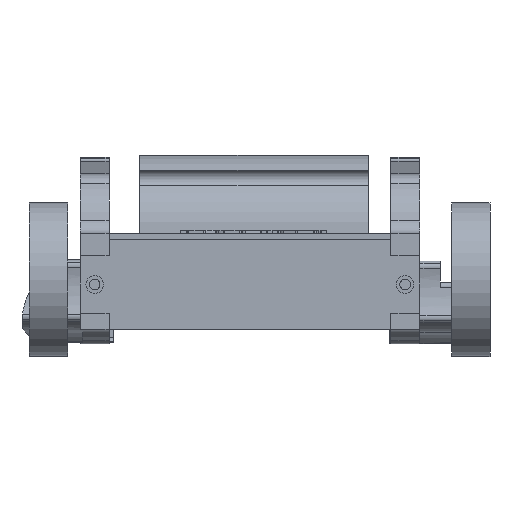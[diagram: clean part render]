
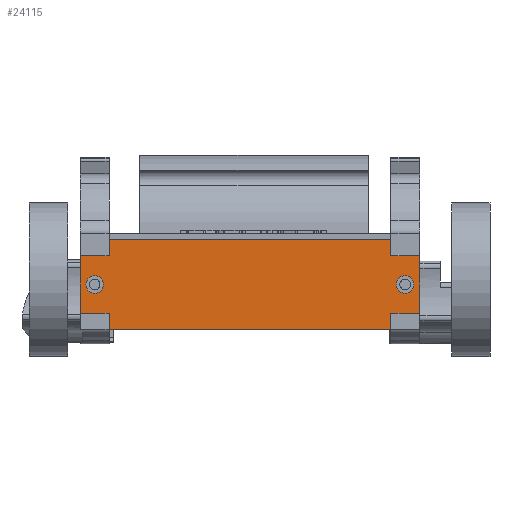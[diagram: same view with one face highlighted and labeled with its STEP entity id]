
A CAD part, front view. The second image highlights one B-rep face of the part: STEP entity #24115.
In plain terms, the highlighted planar face has unit normal (0, -1, 0).
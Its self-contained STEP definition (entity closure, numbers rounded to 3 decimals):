
#1743=FACE_BOUND('',#3733,.T.);
#1744=FACE_BOUND('',#3734,.T.);
#2354=FACE_OUTER_BOUND('',#3732,.T.);
#3732=EDGE_LOOP('',(#16791,#16792,#16793,#16794,#16795,#16796,#16797,#16798,
#16799,#16800,#16801,#16802));
#3733=EDGE_LOOP('',(#16803));
#3734=EDGE_LOOP('',(#16804));
#5275=LINE('',#33999,#7277);
#5276=LINE('',#34001,#7278);
#5277=LINE('',#34003,#7279);
#5278=LINE('',#34005,#7280);
#5279=LINE('',#34007,#7281);
#5280=LINE('',#34009,#7282);
#5281=LINE('',#34011,#7283);
#5282=LINE('',#34013,#7284);
#5283=LINE('',#34015,#7285);
#5284=LINE('',#34017,#7286);
#5285=LINE('',#34019,#7287);
#5286=LINE('',#34020,#7288);
#7277=VECTOR('',#28088,10.);
#7278=VECTOR('',#28089,10.);
#7279=VECTOR('',#28090,10.);
#7280=VECTOR('',#28091,10.);
#7281=VECTOR('',#28092,10.);
#7282=VECTOR('',#28093,10.);
#7283=VECTOR('',#28094,10.);
#7284=VECTOR('',#28095,10.);
#7285=VECTOR('',#28096,10.);
#7286=VECTOR('',#28097,10.);
#7287=VECTOR('',#28098,10.);
#7288=VECTOR('',#28099,10.);
#9163=CIRCLE('',#25677,2.75);
#9165=CIRCLE('',#25681,2.75);
#9931=VERTEX_POINT('',#33983);
#9933=VERTEX_POINT('',#33990);
#9935=VERTEX_POINT('',#33997);
#9936=VERTEX_POINT('',#33998);
#9937=VERTEX_POINT('',#34000);
#9938=VERTEX_POINT('',#34002);
#9939=VERTEX_POINT('',#34004);
#9940=VERTEX_POINT('',#34006);
#9941=VERTEX_POINT('',#34008);
#9942=VERTEX_POINT('',#34010);
#9943=VERTEX_POINT('',#34012);
#9944=VERTEX_POINT('',#34014);
#9945=VERTEX_POINT('',#34016);
#9946=VERTEX_POINT('',#34018);
#12582=EDGE_CURVE('',#9931,#9931,#9163,.T.);
#12585=EDGE_CURVE('',#9933,#9933,#9165,.T.);
#12588=EDGE_CURVE('',#9935,#9936,#5275,.T.);
#12589=EDGE_CURVE('',#9936,#9937,#5276,.T.);
#12590=EDGE_CURVE('',#9937,#9938,#5277,.T.);
#12591=EDGE_CURVE('',#9939,#9938,#5278,.T.);
#12592=EDGE_CURVE('',#9940,#9939,#5279,.T.);
#12593=EDGE_CURVE('',#9940,#9941,#5280,.T.);
#12594=EDGE_CURVE('',#9942,#9941,#5281,.T.);
#12595=EDGE_CURVE('',#9943,#9942,#5282,.T.);
#12596=EDGE_CURVE('',#9943,#9944,#5283,.T.);
#12597=EDGE_CURVE('',#9945,#9944,#5284,.T.);
#12598=EDGE_CURVE('',#9946,#9945,#5285,.T.);
#12599=EDGE_CURVE('',#9935,#9946,#5286,.T.);
#16791=ORIENTED_EDGE('',*,*,#12588,.T.);
#16792=ORIENTED_EDGE('',*,*,#12589,.T.);
#16793=ORIENTED_EDGE('',*,*,#12590,.T.);
#16794=ORIENTED_EDGE('',*,*,#12591,.F.);
#16795=ORIENTED_EDGE('',*,*,#12592,.F.);
#16796=ORIENTED_EDGE('',*,*,#12593,.T.);
#16797=ORIENTED_EDGE('',*,*,#12594,.F.);
#16798=ORIENTED_EDGE('',*,*,#12595,.F.);
#16799=ORIENTED_EDGE('',*,*,#12596,.T.);
#16800=ORIENTED_EDGE('',*,*,#12597,.F.);
#16801=ORIENTED_EDGE('',*,*,#12598,.F.);
#16802=ORIENTED_EDGE('',*,*,#12599,.F.);
#16803=ORIENTED_EDGE('',*,*,#12582,.T.);
#16804=ORIENTED_EDGE('',*,*,#12585,.T.);
#23519=PLANE('',#25684);
#24115=ADVANCED_FACE('',(#2354,#1743,#1744),#23519,.T.);
#25677=AXIS2_PLACEMENT_3D('',#33984,#28070,#28071);
#25681=AXIS2_PLACEMENT_3D('',#33991,#28079,#28080);
#25684=AXIS2_PLACEMENT_3D('',#33996,#28086,#28087);
#28070=DIRECTION('center_axis',(0.,1.,0.));
#28071=DIRECTION('ref_axis',(1.,0.,0.));
#28079=DIRECTION('center_axis',(0.,1.,0.));
#28080=DIRECTION('ref_axis',(1.,0.,0.));
#28086=DIRECTION('center_axis',(0.,-1.,0.));
#28087=DIRECTION('ref_axis',(1.,0.,0.));
#28088=DIRECTION('',(1.,0.,0.));
#28089=DIRECTION('',(0.,0.,1.));
#28090=DIRECTION('',(1.,0.,0.));
#28091=DIRECTION('',(0.,0.,-1.));
#28092=DIRECTION('',(1.,0.,0.));
#28093=DIRECTION('',(0.,0.,1.));
#28094=DIRECTION('',(1.,0.,0.));
#28095=DIRECTION('',(0.,0.,1.));
#28096=DIRECTION('',(-1.,0.,0.));
#28097=DIRECTION('',(0.,0.,1.));
#28098=DIRECTION('',(-1.,0.,0.));
#28099=DIRECTION('',(0.,0.,1.));
#33983=CARTESIAN_POINT('',(1.75,0.,14.));
#33984=CARTESIAN_POINT('Origin',(4.5,0.,14.));
#33990=CARTESIAN_POINT('',(98.75,0.,14.));
#33991=CARTESIAN_POINT('Origin',(101.5,0.,14.));
#33996=CARTESIAN_POINT('Origin',(9.,0.,0.));
#33997=CARTESIAN_POINT('',(9.,0.,0.));
#33998=CARTESIAN_POINT('',(97.,0.,0.));
#33999=CARTESIAN_POINT('',(9.,0.,0.));
#34000=CARTESIAN_POINT('',(97.,0.,5.));
#34001=CARTESIAN_POINT('',(97.,0.,0.));
#34002=CARTESIAN_POINT('',(106.,0.,5.));
#34003=CARTESIAN_POINT('',(97.,0.,5.));
#34004=CARTESIAN_POINT('',(106.,0.,23.));
#34005=CARTESIAN_POINT('',(106.,0.,5.));
#34006=CARTESIAN_POINT('',(97.,0.,23.));
#34007=CARTESIAN_POINT('',(97.,0.,23.));
#34008=CARTESIAN_POINT('',(97.,0.,28.));
#34009=CARTESIAN_POINT('',(97.,0.,0.));
#34010=CARTESIAN_POINT('',(9.,0.,28.));
#34011=CARTESIAN_POINT('',(9.,0.,28.));
#34012=CARTESIAN_POINT('',(9.,0.,23.));
#34013=CARTESIAN_POINT('',(9.,0.,0.));
#34014=CARTESIAN_POINT('',(0.,0.,23.));
#34015=CARTESIAN_POINT('',(9.,0.,23.));
#34016=CARTESIAN_POINT('',(0.,0.,5.));
#34017=CARTESIAN_POINT('',(0.,0.,23.));
#34018=CARTESIAN_POINT('',(9.,0.,5.));
#34019=CARTESIAN_POINT('',(9.,0.,5.));
#34020=CARTESIAN_POINT('',(9.,0.,0.));
